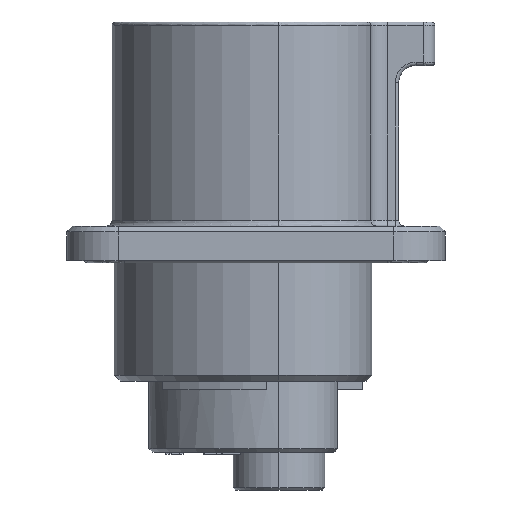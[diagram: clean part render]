
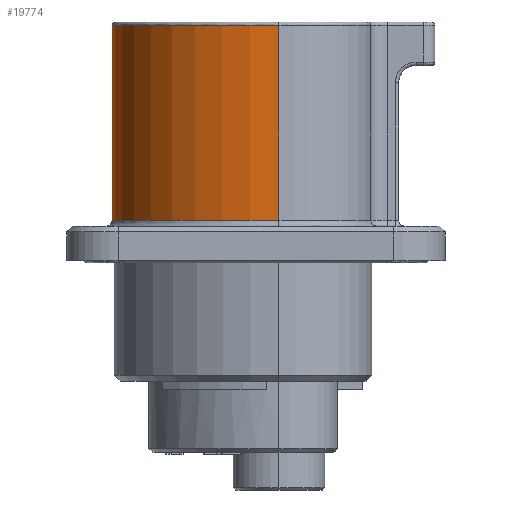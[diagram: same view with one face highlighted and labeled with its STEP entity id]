
A CAD part, left-side view. The second image highlights one B-rep face of the part: STEP entity #19774.
In plain terms, the highlighted cylindrical face has radius 14.55 mm (diameter 29.1 mm), a partial arc.
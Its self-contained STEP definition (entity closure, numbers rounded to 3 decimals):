
#2589 = EDGE_CURVE ( 'NONE', #21370, #6930, #37977, .T. ) ;
#4216 = CARTESIAN_POINT ( 'NONE',  ( -22.352, -0.61, 35. ) ) ;
#4793 = FACE_OUTER_BOUND ( 'NONE', #13094, .T. ) ;
#6930 = VERTEX_POINT ( 'NONE', #4216 ) ;
#7184 = CIRCLE ( 'NONE', #30491, 14.55 ) ;
#7382 = EDGE_CURVE ( 'NONE', #27480, #21370, #18382, .T. ) ;
#7555 = LINE ( 'NONE', #25098, #24469 ) ;
#8136 = CARTESIAN_POINT ( 'NONE',  ( -7.802, -0.61, -2.499 ) ) ;
#9564 = AXIS2_PLACEMENT_3D ( 'NONE', #28513, #9738, #31463 ) ;
#9738 = DIRECTION ( 'NONE',  ( 0., 0., 1. ) ) ;
#10210 = ORIENTED_EDGE ( 'NONE', *, *, #7382, .T. ) ;
#11841 = AXIS2_PLACEMENT_3D ( 'NONE', #8136, #24100, #36724 ) ;
#13094 = EDGE_LOOP ( 'NONE', ( #31187, #37250, #10210, #22917 ) ) ;
#16184 = DIRECTION ( 'NONE',  ( 0., 0., -1. ) ) ;
#18382 = LINE ( 'NONE', #38171, #20129 ) ;
#19053 = CARTESIAN_POINT ( 'NONE',  ( -7.802, -0.61, 52. ) ) ;
#19774 = ADVANCED_FACE ( 'NONE', ( #4793 ), #33500, .T. ) ;
#20129 = VECTOR ( 'NONE', #16184, 1000. ) ;
#21330 = VERTEX_POINT ( 'NONE', #32428 ) ;
#21370 = VERTEX_POINT ( 'NONE', #31836 ) ;
#22222 = DIRECTION ( 'NONE',  ( 1., 0., 0. ) ) ;
#22917 = ORIENTED_EDGE ( 'NONE', *, *, #2589, .T. ) ;
#24100 = DIRECTION ( 'NONE',  ( 0., 0., 1. ) ) ;
#24469 = VECTOR ( 'NONE', #31263, 1000. ) ;
#25098 = CARTESIAN_POINT ( 'NONE',  ( -22.352, -0.61, -2.499 ) ) ;
#27480 = VERTEX_POINT ( 'NONE', #33703 ) ;
#28513 = CARTESIAN_POINT ( 'NONE',  ( -7.802, -0.61, 35. ) ) ;
#30107 = EDGE_CURVE ( 'NONE', #21330, #27480, #7184, .T. ) ;
#30491 = AXIS2_PLACEMENT_3D ( 'NONE', #19053, #41044, #22222 ) ;
#31187 = ORIENTED_EDGE ( 'NONE', *, *, #34708, .T. ) ;
#31263 = DIRECTION ( 'NONE',  ( 0., 0., 1. ) ) ;
#31463 = DIRECTION ( 'NONE',  ( 1., 0., 0. ) ) ;
#31836 = CARTESIAN_POINT ( 'NONE',  ( 6.748, -0.61, 35. ) ) ;
#32428 = CARTESIAN_POINT ( 'NONE',  ( -22.352, -0.61, 52. ) ) ;
#33500 = CYLINDRICAL_SURFACE ( 'NONE', #11841, 14.55 ) ;
#33703 = CARTESIAN_POINT ( 'NONE',  ( 6.748, -0.61, 52. ) ) ;
#34708 = EDGE_CURVE ( 'NONE', #6930, #21330, #7555, .T. ) ;
#36724 = DIRECTION ( 'NONE',  ( 1., 0., 0. ) ) ;
#37250 = ORIENTED_EDGE ( 'NONE', *, *, #30107, .T. ) ;
#37977 = CIRCLE ( 'NONE', #9564, 14.55 ) ;
#38171 = CARTESIAN_POINT ( 'NONE',  ( 6.748, -0.61, -2.499 ) ) ;
#41044 = DIRECTION ( 'NONE',  ( 0., 0., -1. ) ) ;
